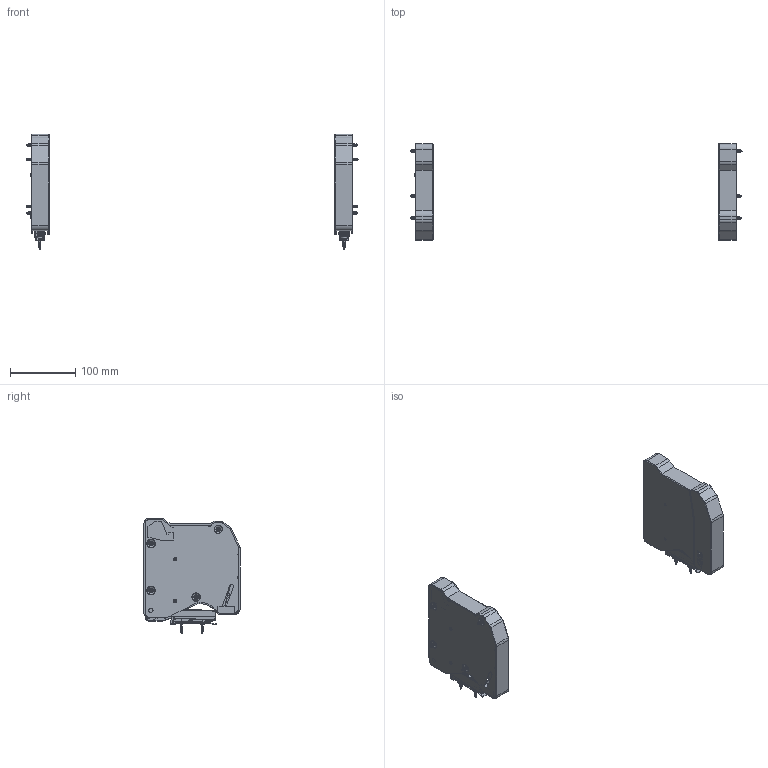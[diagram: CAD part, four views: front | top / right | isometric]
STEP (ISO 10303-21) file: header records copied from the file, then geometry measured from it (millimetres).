
FILE_DESCRIPTION(/* description */ (''),/* implementation_level */ '2;1');
FILE_NAME(/* name */ 'C:\Users\dmitruk\Documents\WORK\\X2\041F043E0434044A0435043C043D0438043A0438\X0\\HELIOS\HELIOS закрыто.stp',/* time_stamp */ '2022-08-03T16:20:22+03:00',/* author */ ('dmitruk'),/* organization */ (''),/* preprocessor_version */ 'ST-DEVELOPER v16.5',/* originating_system */ 'Autodesk Inventor 2017',/* authorisation */ '');
FILE_SCHEMA (('AUTOMOTIVE_DESIGN { 1 0 10303 214 3 1 1 }'));
Length unit declared in the file: millimetre
Products named in the file (15): HELIOS комплект; HELIOS закрыто; Крышка_1; HELIOS лев \X2\0443044104420430043D043E
0432043A0430\X0\ закрыто; Корпус; Рычаг1_1; Рычаг2_1; Крепление \X2\043F043B
0430043D043A0438\X0\; Ответная \X2\043F043B0430
043D043A0430\X0\; Ось; винт Hermes; p6; шляпка; p25; Крышка левая
Assembly tree (32 placements, depth 3):
  HELIOS комплект
    HELIOS закрыто
      Корпус
      Рычаг1_1
      Рычаг2_1
      Крепление \X2\043F043B
0430043D043A0438\X0\
      Крышка_1
      Ответная \X2\043F043B0430
043D043A0430\X0\
      Ось
      винт Hermes
      p6  x4
      шляпка
      p25  x2
    HELIOS лев \X2\0443044104420430043D043E
0432043A0430\X0\ закрыто
      Корпус
      Рычаг1_1
      Рычаг2_1
      Крепление \X2\043F043B
0430043D043A0438\X0\
      Ответная \X2\043F043B0430
043D043A0430\X0\
      Ось
      винт Hermes
      p6  x4
      шляпка
      p25  x2
      Крышка левая
Bounding box: 509.41 x 147.53 x 177.34 mm (x, y, z)
Volume: 283777 mm3; surface area: 361346.5 mm2
Topology: 36 solids, 36 shells, 2288 faces, 5980 edges, 3854 vertices
Faces by surface type: plane 1256, cylinder 570, cone 254, torus 154, bspline 50, sphere 4
Full cylindrical faces by diameter (mm): 1.476 x2, 1.87 x2, 2.446 x2, 2.5 x112, 3.104 x4, 3.23 x4, 3.5 x4, 3.6 x50, 3.979 x4, 4 x8, 5.807 x2, 6.171 x2, 6.337 x2, 6.761 x2, 6.883 x8, 6.926 x6, 7 x4, 7.447 x4, 7.627 x2, 8 x4, 8.175 x2, 9.285 x2, 9.808 x2
Entity records: 34919 total; most frequent: CARTESIAN_POINT 9466, DIRECTION 5327, ORIENTED_EDGE 5058, EDGE_CURVE 2529, AXIS2_PLACEMENT_3D 1848, VERTEX_POINT 1695, LINE 1631, VECTOR 1631
